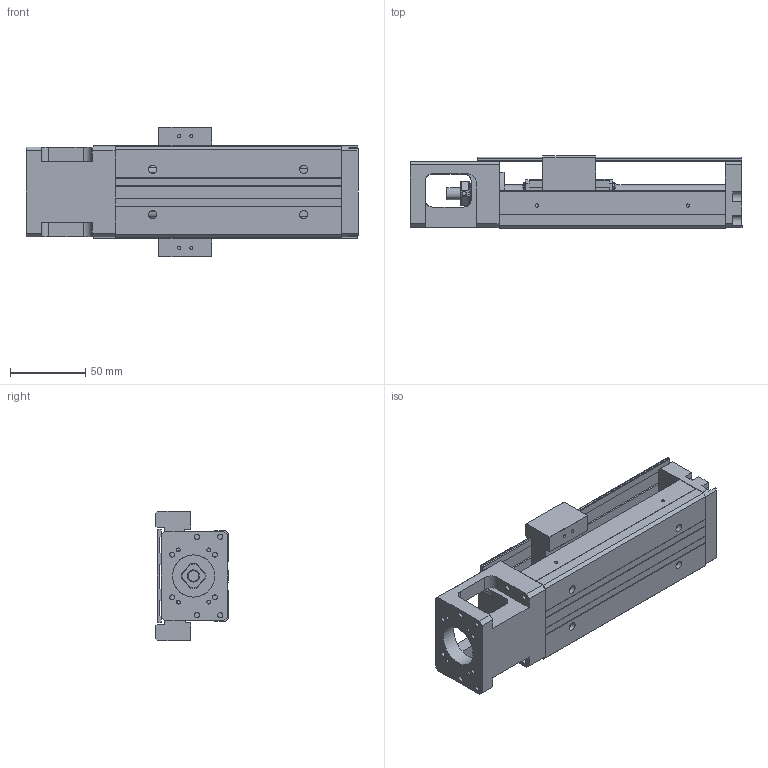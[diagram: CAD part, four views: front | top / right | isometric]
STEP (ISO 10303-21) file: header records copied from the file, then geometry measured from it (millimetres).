
FILE_DESCRIPTION(/* description */ (''),/* implementation_level */ '2;1');
FILE_NAME(/* name */ 'KP33S-C-D-150.stp',/* time_stamp */ '2020-06-04T17:40:10+08:00',/* author */ (''),/* organization */ (''),/* preprocessor_version */ 'ST-DEVELOPER v14',/* originating_system */ 'SIEMENS PLM Software NX 8.0',/* authorisation */ '');
FILE_SCHEMA (('AUTOMOTIVE_DESIGN { 1 0 10303 214 3 1 1 1 }'));
Length unit declared in the file: millimetre
Products named in the file (1): model1
Bounding box: 220 x 47.95 x 86 mm (x, y, z)
Volume: 355609.7 mm3; surface area: 120279.1 mm2
Topology: 7 solids, 12 shells, 655 faces, 1690 edges, 1116 vertices
Faces by surface type: plane 399, cylinder 171, bspline 31, cone 22, extrusion 21, torus 9, revolution 2
Full cylindrical faces by diameter (mm): 1.6 x2, 1.65 x4, 2.15 x6, 2.42 x4, 2.45 x8, 2.5 x8, 3.2 x4, 3.3 x4, 3.4 x4, 3.5 x10, 3.969 x1, 4 x4, 4.001 x1, 4.135 x2, 4.2 x2, 5.5 x4, 6 x4, 7.6 x1, 8 x5, 9.5 x4, 10.72 x3, 11.8 x2, 12 x1, 12.8 x1, 13 x2, 14 x1, 17.38 x3, 21.5 x1, 22 x2, 28 x1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
Entity records: 34948 total; most frequent: CARTESIAN_POINT 16138, DIRECTION 3014, ORIENTED_EDGE 2980, EDGE_CURVE 1490, VERTEX_POINT 1047, AXIS2_PLACEMENT_3D 1031, VECTOR 950, LINE 929
